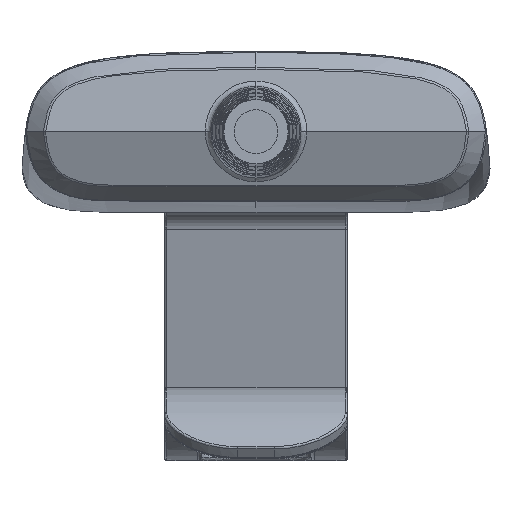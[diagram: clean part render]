
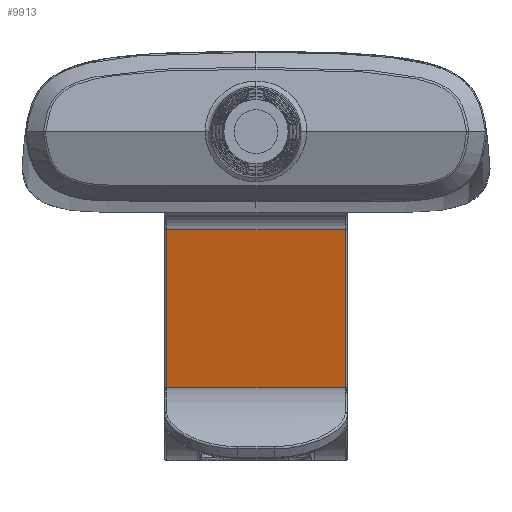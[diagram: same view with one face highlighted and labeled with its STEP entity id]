
A CAD part, front view. The second image highlights one B-rep face of the part: STEP entity #9913.
In plain terms, the highlighted planar face has unit normal (0, -0.978, -0.208).
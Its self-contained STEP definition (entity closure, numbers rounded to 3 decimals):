
#1268 = CARTESIAN_POINT ( 'NONE',  ( -12.2, 9.591, -2.376 ) ) ;
#2764 = ORIENTED_EDGE ( 'NONE', *, *, #5557, .F. ) ;
#3776 = VERTEX_POINT ( 'NONE', #1268 ) ;
#3884 = DIRECTION ( 'NONE',  ( -1., 0., 0. ) ) ;
#4783 = VECTOR ( 'NONE', #10745, 1000. ) ;
#4885 = ORIENTED_EDGE ( 'NONE', *, *, #20030, .F. ) ;
#5557 = EDGE_CURVE ( 'NONE', #12479, #3776, #8929, .T. ) ;
#7342 = DIRECTION ( 'NONE',  ( -1., 0., 0. ) ) ;
#7616 = VECTOR ( 'NONE', #3884, 1000. ) ;
#7746 = CARTESIAN_POINT ( 'NONE',  ( -12.2, 9.591, -2.376 ) ) ;
#8052 = CARTESIAN_POINT ( 'NONE',  ( 12.2, 9.591, -2.376 ) ) ;
#8240 = PLANE ( 'NONE',  #11712 ) ;
#8242 = LINE ( 'NONE', #10422, #15073 ) ;
#8259 = FACE_OUTER_BOUND ( 'NONE', #10726, .T. ) ;
#8571 = LINE ( 'NONE', #16441, #7616 ) ;
#8929 = LINE ( 'NONE', #7746, #4783 ) ;
#9535 = ORIENTED_EDGE ( 'NONE', *, *, #12768, .T. ) ;
#9913 = ADVANCED_FACE ( 'NONE', ( #8259 ), #8240, .F. ) ;
#10080 = DIRECTION ( 'NONE',  ( 0., 0.208, -0.978 ) ) ;
#10422 = CARTESIAN_POINT ( 'NONE',  ( -12.5, 15.118, -28.376 ) ) ;
#10726 = EDGE_LOOP ( 'NONE', ( #2764, #10901, #4885, #9535 ) ) ;
#10745 = DIRECTION ( 'NONE',  ( 0., -0.208, 0.978 ) ) ;
#10901 = ORIENTED_EDGE ( 'NONE', *, *, #19335, .F. ) ;
#11651 = LINE ( 'NONE', #17889, #15805 ) ;
#11712 = AXIS2_PLACEMENT_3D ( 'NONE', #19192, #13417, #19822 ) ;
#12113 = CARTESIAN_POINT ( 'NONE',  ( 12.2, 15.118, -28.376 ) ) ;
#12479 = VERTEX_POINT ( 'NONE', #18882 ) ;
#12768 = EDGE_CURVE ( 'NONE', #16472, #3776, #8571, .T. ) ;
#13417 = DIRECTION ( 'NONE',  ( 0., 0.978, 0.208 ) ) ;
#15073 = VECTOR ( 'NONE', #7342, 1000. ) ;
#15805 = VECTOR ( 'NONE', #10080, 1000. ) ;
#16441 = CARTESIAN_POINT ( 'NONE',  ( -12.5, 9.591, -2.376 ) ) ;
#16472 = VERTEX_POINT ( 'NONE', #8052 ) ;
#17360 = VERTEX_POINT ( 'NONE', #12113 ) ;
#17889 = CARTESIAN_POINT ( 'NONE',  ( 12.2, 9.591, -2.376 ) ) ;
#18882 = CARTESIAN_POINT ( 'NONE',  ( -12.2, 15.118, -28.376 ) ) ;
#19192 = CARTESIAN_POINT ( 'NONE',  ( -12.5, 9.591, -2.376 ) ) ;
#19335 = EDGE_CURVE ( 'NONE', #17360, #12479, #8242, .T. ) ;
#19822 = DIRECTION ( 'NONE',  ( 0., 0.208, -0.978 ) ) ;
#20030 = EDGE_CURVE ( 'NONE', #16472, #17360, #11651, .T. ) ;
